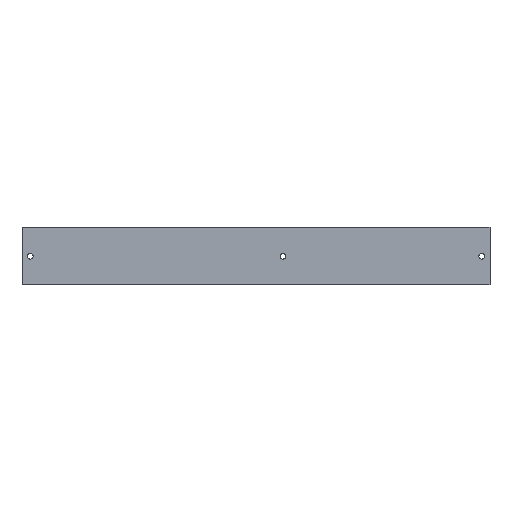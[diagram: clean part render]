
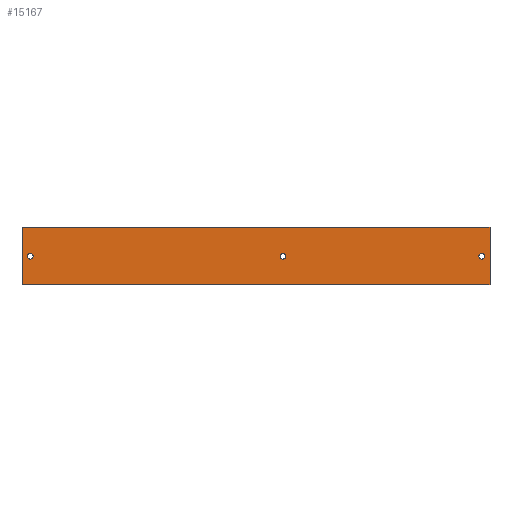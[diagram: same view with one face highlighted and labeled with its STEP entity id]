
A CAD part, front view. The second image highlights one B-rep face of the part: STEP entity #15167.
In plain terms, the highlighted planar face has unit normal (0, -1, 0).
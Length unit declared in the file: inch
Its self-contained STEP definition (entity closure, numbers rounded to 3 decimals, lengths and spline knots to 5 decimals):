
#487 = EDGE_CURVE ( 'NONE', #4984, #21369, #18803, .T. ) ;
#1313 = CARTESIAN_POINT ( 'NONE',  ( -27.75, 0., -1.578 ) ) ;
#2300 = CARTESIAN_POINT ( 'NONE',  ( -28.25, 0., -3.466 ) ) ;
#3020 = FACE_BOUND ( 'NONE', #3582, .T. ) ;
#3155 = CIRCLE ( 'NONE', #23368, 0.172 ) ;
#3582 = EDGE_LOOP ( 'NONE', ( #9646, #20744 ) ) ;
#4400 = CIRCLE ( 'NONE', #16381, 0.172 ) ;
#4984 = VERTEX_POINT ( 'NONE', #10481 ) ;
#5228 = VERTEX_POINT ( 'NONE', #6638 ) ;
#5610 = CARTESIAN_POINT ( 'NONE',  ( -28.25, 0., 0. ) ) ;
#5746 = DIRECTION ( 'NONE',  ( 0., 0., 1. ) ) ;
#5752 = DIRECTION ( 'NONE',  ( 0., 1., 0. ) ) ;
#5779 = CARTESIAN_POINT ( 'NONE',  ( -0.5, 0., -1.75 ) ) ;
#5852 = AXIS2_PLACEMENT_3D ( 'NONE', #18711, #18678, #18624 ) ;
#6227 = CARTESIAN_POINT ( 'NONE',  ( -12.5, 0., -1.75 ) ) ;
#6261 = CARTESIAN_POINT ( 'NONE',  ( 0., 0., 0. ) ) ;
#6357 = EDGE_CURVE ( 'NONE', #20279, #16967, #9984, .T. ) ;
#6519 = EDGE_CURVE ( 'NONE', #13643, #5228, #23385, .T. ) ;
#6573 = DIRECTION ( 'NONE',  ( 0., 0., -1. ) ) ;
#6581 = EDGE_CURVE ( 'NONE', #21369, #4984, #4400, .T. ) ;
#6625 = EDGE_CURVE ( 'NONE', #24297, #12875, #9815, .T. ) ;
#6638 = CARTESIAN_POINT ( 'NONE',  ( -12.5, 0., -1.922 ) ) ;
#6856 = EDGE_CURVE ( 'NONE', #24417, #16967, #8283, .T. ) ;
#7214 = CARTESIAN_POINT ( 'NONE',  ( -28.25, 0., 0. ) ) ;
#7816 = EDGE_CURVE ( 'NONE', #13082, #24417, #12701, .T. ) ;
#8217 = DIRECTION ( 'NONE',  ( 0., 0., 1. ) ) ;
#8283 = LINE ( 'NONE', #6261, #18629 ) ;
#8427 = CARTESIAN_POINT ( 'NONE',  ( -0.5, 0., -1.75 ) ) ;
#8457 = ORIENTED_EDGE ( 'NONE', *, *, #7816, .F. ) ;
#9562 = DIRECTION ( 'NONE',  ( 0., -1., 0. ) ) ;
#9609 = LINE ( 'NONE', #24766, #24912 ) ;
#9631 = DIRECTION ( 'NONE',  ( 0., 0., 1. ) ) ;
#9646 = ORIENTED_EDGE ( 'NONE', *, *, #6581, .T. ) ;
#9654 = DIRECTION ( 'NONE',  ( 0., 1., 0. ) ) ;
#9678 = CARTESIAN_POINT ( 'NONE',  ( -27.75, 0., -1.75 ) ) ;
#9815 = CIRCLE ( 'NONE', #16169, 0.172 ) ;
#9984 = LINE ( 'NONE', #14370, #19795 ) ;
#10042 = CARTESIAN_POINT ( 'NONE',  ( -0.5, 0., -1.922 ) ) ;
#10130 = CARTESIAN_POINT ( 'NONE',  ( -12.5, 0., -1.578 ) ) ;
#10348 = DIRECTION ( 'NONE',  ( 0., 0., 1. ) ) ;
#10377 = DIRECTION ( 'NONE',  ( 0., 0., 1. ) ) ;
#10403 = DIRECTION ( 'NONE',  ( 0., 1., 0. ) ) ;
#10437 = CARTESIAN_POINT ( 'NONE',  ( -12.5, 0., -1.75 ) ) ;
#10481 = CARTESIAN_POINT ( 'NONE',  ( -27.75, 0., -1.922 ) ) ;
#12028 = EDGE_CURVE ( 'NONE', #13082, #20279, #9609, .T. ) ;
#12174 = FACE_BOUND ( 'NONE', #23488, .T. ) ;
#12303 = ORIENTED_EDGE ( 'NONE', *, *, #6856, .F. ) ;
#12701 = LINE ( 'NONE', #7214, #22822 ) ;
#12785 = FACE_BOUND ( 'NONE', #22192, .T. ) ;
#12875 = VERTEX_POINT ( 'NONE', #10042 ) ;
#13082 = VERTEX_POINT ( 'NONE', #24792 ) ;
#13219 = ORIENTED_EDGE ( 'NONE', *, *, #6625, .T. ) ;
#13643 = VERTEX_POINT ( 'NONE', #10130 ) ;
#14323 = DIRECTION ( 'NONE',  ( 1., 0., 0. ) ) ;
#14370 = CARTESIAN_POINT ( 'NONE',  ( -28.25, 0., -3.466 ) ) ;
#15167 = ADVANCED_FACE ( 'NONE', ( #12785, #3020, #12174, #17366 ), #21406, .T. ) ;
#16169 = AXIS2_PLACEMENT_3D ( 'NONE', #5779, #5752, #5746 ) ;
#16381 = AXIS2_PLACEMENT_3D ( 'NONE', #9678, #9654, #9631 ) ;
#16524 = AXIS2_PLACEMENT_3D ( 'NONE', #10437, #10403, #10377 ) ;
#16660 = AXIS2_PLACEMENT_3D ( 'NONE', #5610, #9562, #23486 ) ;
#16967 = VERTEX_POINT ( 'NONE', #21151 ) ;
#17366 = FACE_OUTER_BOUND ( 'NONE', #25738, .T. ) ;
#17833 = ORIENTED_EDGE ( 'NONE', *, *, #6357, .T. ) ;
#18134 = CARTESIAN_POINT ( 'NONE',  ( -0.5, 0., -1.578 ) ) ;
#18624 = DIRECTION ( 'NONE',  ( 0., 0., 1. ) ) ;
#18629 = VECTOR ( 'NONE', #6573, 39.37008 ) ;
#18678 = DIRECTION ( 'NONE',  ( 0., 1., 0. ) ) ;
#18711 = CARTESIAN_POINT ( 'NONE',  ( -27.75, 0., -1.75 ) ) ;
#18803 = CIRCLE ( 'NONE', #5852, 0.172 ) ;
#19015 = EDGE_CURVE ( 'NONE', #5228, #13643, #3155, .T. ) ;
#19177 = AXIS2_PLACEMENT_3D ( 'NONE', #8427, #22291, #10348 ) ;
#19778 = ORIENTED_EDGE ( 'NONE', *, *, #23763, .T. ) ;
#19795 = VECTOR ( 'NONE', #14323, 39.37008 ) ;
#19954 = DIRECTION ( 'NONE',  ( 0., 1., 0. ) ) ;
#20279 = VERTEX_POINT ( 'NONE', #2300 ) ;
#20587 = CARTESIAN_POINT ( 'NONE',  ( 0., 0., 0. ) ) ;
#20744 = ORIENTED_EDGE ( 'NONE', *, *, #487, .T. ) ;
#21062 = ORIENTED_EDGE ( 'NONE', *, *, #6519, .T. ) ;
#21151 = CARTESIAN_POINT ( 'NONE',  ( 0., 0., -3.466 ) ) ;
#21369 = VERTEX_POINT ( 'NONE', #1313 ) ;
#21406 = PLANE ( 'NONE',  #16660 ) ;
#22089 = ORIENTED_EDGE ( 'NONE', *, *, #12028, .T. ) ;
#22192 = EDGE_LOOP ( 'NONE', ( #21062, #22391 ) ) ;
#22291 = DIRECTION ( 'NONE',  ( 0., 1., 0. ) ) ;
#22391 = ORIENTED_EDGE ( 'NONE', *, *, #19015, .T. ) ;
#22724 = DIRECTION ( 'NONE',  ( 0., 0., -1. ) ) ;
#22822 = VECTOR ( 'NONE', #23654, 39.37008 ) ;
#23368 = AXIS2_PLACEMENT_3D ( 'NONE', #6227, #19954, #8217 ) ;
#23385 = CIRCLE ( 'NONE', #16524, 0.172 ) ;
#23486 = DIRECTION ( 'NONE',  ( 0., 0., -1. ) ) ;
#23488 = EDGE_LOOP ( 'NONE', ( #13219, #19778 ) ) ;
#23636 = CIRCLE ( 'NONE', #19177, 0.172 ) ;
#23654 = DIRECTION ( 'NONE',  ( 1., 0., 0. ) ) ;
#23763 = EDGE_CURVE ( 'NONE', #12875, #24297, #23636, .T. ) ;
#24297 = VERTEX_POINT ( 'NONE', #18134 ) ;
#24417 = VERTEX_POINT ( 'NONE', #20587 ) ;
#24766 = CARTESIAN_POINT ( 'NONE',  ( -28.25, 0., 0. ) ) ;
#24792 = CARTESIAN_POINT ( 'NONE',  ( -28.25, 0., 0. ) ) ;
#24912 = VECTOR ( 'NONE', #22724, 39.37008 ) ;
#25738 = EDGE_LOOP ( 'NONE', ( #12303, #8457, #22089, #17833 ) ) ;
